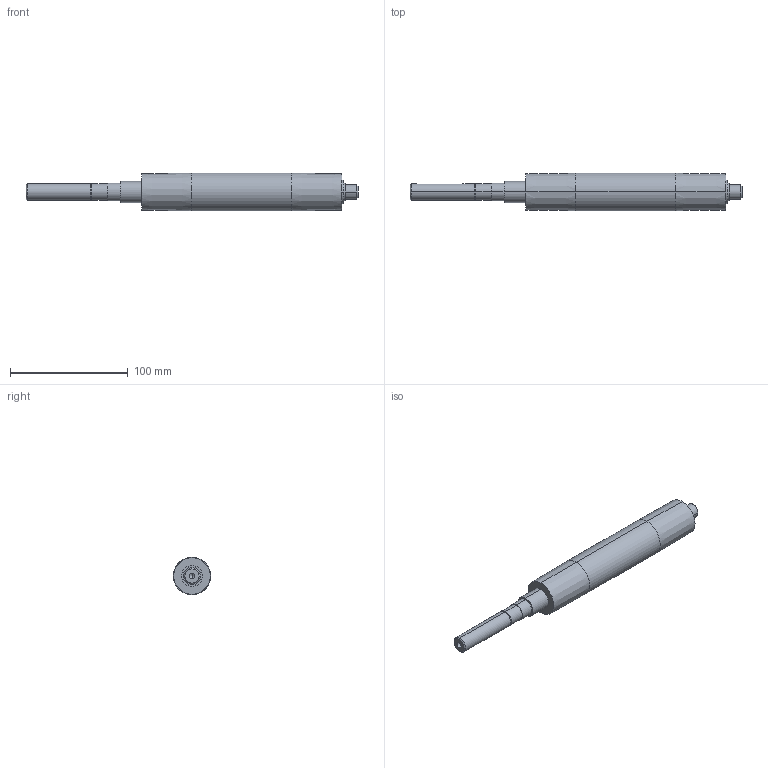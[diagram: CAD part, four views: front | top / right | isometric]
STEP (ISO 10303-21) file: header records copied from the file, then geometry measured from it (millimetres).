
FILE_DESCRIPTION (( 'STEP AP214' ), '1' );
FILE_NAME ('084.030.138.STEP', '2021-02-05T15:44:35', ( '' ), ( '' ), 'SwSTEP 2.0', 'SolidWorks 2018', '' );
FILE_SCHEMA (( 'AUTOMOTIVE_DESIGN' ));
Length unit declared in the file: millimetre
Products named in the file (1): 084.030.138
Bounding box: 282.5 x 32 x 32 mm (x, y, z)
Volume: 152900.2 mm3; surface area: 24177 mm2
Topology: 1 solids, 1 shells, 45 faces, 92 edges, 57 vertices
Faces by surface type: cylinder 22, plane 13, cone 10
Entity records: 1296 total; most frequent: CARTESIAN_POINT 255, DIRECTION 230, ORIENTED_EDGE 180, AXIS2_PLACEMENT_3D 96, EDGE_CURVE 90, VERTEX_POINT 57, EDGE_LOOP 55, CIRCLE 50
